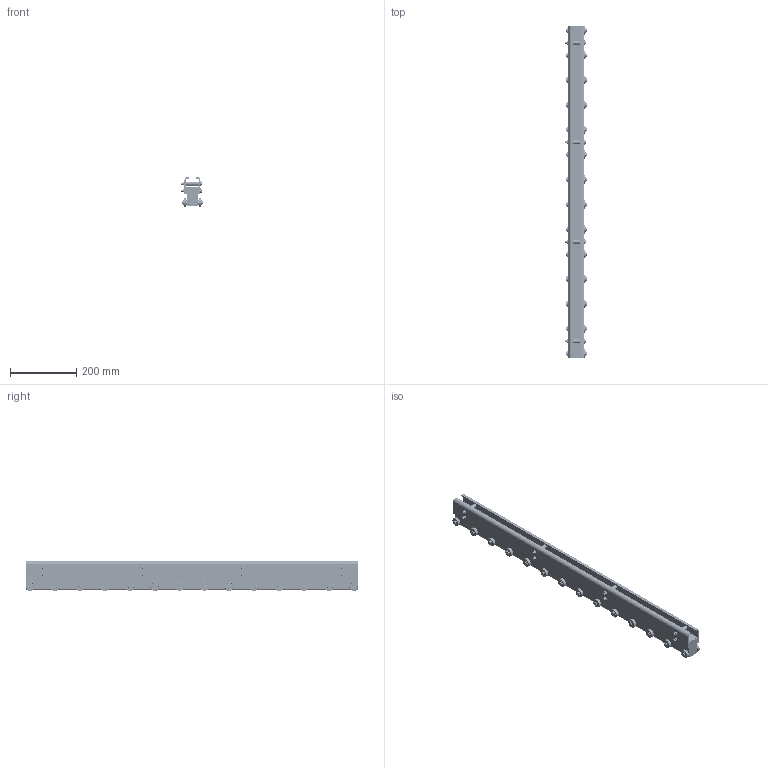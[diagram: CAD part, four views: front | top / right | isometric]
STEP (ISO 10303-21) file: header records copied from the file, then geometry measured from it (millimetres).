
FILE_DESCRIPTION(/* description */ (''),/* implementation_level */ '2;1');
FILE_NAME(/* name */ 'SPC-RO-035Wx087Hx1000L.step',/* time_stamp */ '2023-04-04T10:41:12+09:00',/* author */ (''),/* organization */ (''),/* preprocessor_version */ 'ST-DEVELOPER v19.2',/* originating_system */ 'Autodesk Translation Framework v11.17.0.187',/* authorisation */ '');
FILE_SCHEMA (('AUTOMOTIVE_DESIGN { 1 0 10303 214 3 1 1 }'));
Length unit declared in the file: millimetre
Products named in the file (45): SPC-RO-035Wx087Hx1000L; BODY1; BODY2; Bracket; bo-m6x60-JISB1180; UNUTKZ6; Shaft; 6000ZZ; Shaft_1; 6000ZZ_1; Shaft_2; 6000ZZ_2; Shaft_3; 6000ZZ_3; Shaft_4; 6000ZZ_4; Shaft_5; 6000ZZ_5; Shaft_6; 6000ZZ_6; Shaft_7; 6000ZZ_7; Shaft_8; 6000ZZ_8; Shaft_9; 6000ZZ_9; Shaft_10; 6000ZZ_10; Shaft_11; 6000ZZ_11; Shaft_12; 6000ZZ_12; Shaft_13; 6000ZZ_13; 6000ZZ_shield; 6000ZZ_or; 6000ZZ_ball; 6000ZZ_cage; 6000ZZ_ir; 6000ZZ v1(ミラー)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
Assembly tree (241 placements, depth 4):
  SPC-RO-035Wx087Hx1000L
    BODY1
    BODY2
    Bracket
      bo-m6x60-JISB1180  x8
      UNUTKZ6  x8
    Shaft
      6000ZZ
        6000ZZ_shield  x2
        6000ZZ_or
        6000ZZ_ball  x7
        6000ZZ_cage
        6000ZZ_ir
      6000ZZ v1(ミラー)
        6000ZZ_shield(ミラー)  x2
        6000ZZ_or(ミラー)
        6000ZZ_ball(ミラー)  x7
        6000ZZ_cage(ミラー)
        6000ZZ_ir(ミラー)
    Shaft_1
      6000ZZ_1
        6000ZZ_shield  x2
        6000ZZ_or
        6000ZZ_ball  x7
        6000ZZ_cage
        6000ZZ_ir
      6000ZZ v1(ミラー)
        6000ZZ_shield(ミラー)  x2
        6000ZZ_or(ミラー)
        6000ZZ_ball(ミラー)  x7
        6000ZZ_cage(ミラー)
        6000ZZ_ir(ミラー)
    Shaft_2
      6000ZZ_2
        6000ZZ_shield  x2
        6000ZZ_or
        6000ZZ_ball  x7
        6000ZZ_cage
        6000ZZ_ir
      6000ZZ v1(ミラー)
        6000ZZ_shield(ミラー)  x2
        6000ZZ_or(ミラー)
        6000ZZ_ball(ミラー)  x7
        6000ZZ_cage(ミラー)
        6000ZZ_ir(ミラー)
    Shaft_3
      6000ZZ_3
        6000ZZ_shield  x2
        6000ZZ_or
        6000ZZ_ball  x7
        6000ZZ_cage
        6000ZZ_ir
      6000ZZ v1(ミラー)
        6000ZZ_shield(ミラー)  x2
        6000ZZ_or(ミラー)
        6000ZZ_ball(ミラー)  x7
        6000ZZ_cage(ミラー)
        6000ZZ_ir(ミラー)
    Shaft_4
      6000ZZ_4
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Bounding box: 64.7 x 1001 x 90 mm (x, y, z)
Volume: 1129353.2 mm3; surface area: 901790.5 mm2
Topology: 458 solids, 458 shells, 2935 faces, 7034 edges, 4488 vertices
Faces by surface type: cylinder 950, plane 885, cone 420, sphere 392, torus 288
Full cylindrical faces by diameter (mm): 2 x28, 4.917 x8, 6 x8, 6.5 x8, 7 x32, 8 x12, 9 x8, 10 x78, 10.2 x56, 12 x4, 13.75 x112, 14 x8, 14.703 x56, 16 x56, 16.809 x28, 19.191 x28, 20.704 x56, 22.8 x112, 26 x28
Entity records: 35894 total; most frequent: CARTESIAN_POINT 10499, DIRECTION 5172, ORIENTED_EDGE 4574, EDGE_CURVE 2287, AXIS2_PLACEMENT_3D 2133, VERTEX_POINT 1494, EDGE_LOOP 1313, FACE_OUTER_BOUND 1000
